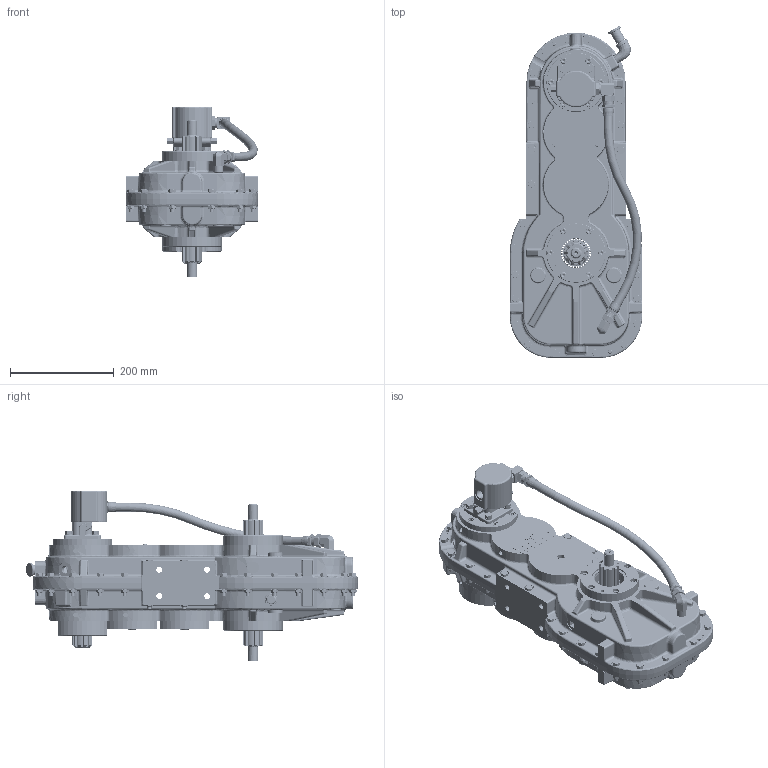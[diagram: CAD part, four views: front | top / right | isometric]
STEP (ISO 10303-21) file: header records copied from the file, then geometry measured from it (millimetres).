
FILE_DESCRIPTION (( 'STEP AP214' ), '1' );
FILE_NAME ('D146A164002.STEP', '2017-10-13T13:33:04', ( 'MikeMihajlovic' ), ( 'Microsoft' ), 'SwSTEP 2.0', 'SolidWorks 2017', '' );
FILE_SCHEMA (( 'AUTOMOTIVE_DESIGN' ));
Length unit declared in the file: inch
Products named in the file (45): SH146016.002; DWL.312X1.00; STEL.38NPT_4638K222; D146A164002; SG .50NPT-02; AV313650; NP266409-1; SHCS .31-18x1.00_SHCS 0.3125-16X1.00; LNNZ.31-24; HHCSZ.31-24x3.50_HBOLT 0.3125-18x1.125x0.875-N; D146016; OS2.250-47; HHCSZ.31-24X1.50; D146017; LWZ.31_Regular LW 0.375; LP1300092_3; HHCSZ.31-18x.75_HBOLT 0.3125-18x0.875x0.875-N; D146003; D146010; SHCS .31-18x.75_HX-SHCS 0.3125-24x0.75x0.75-N; D146005; HA-8-8-7-D146A164002_INTERCONNECTION; D146014; D146039; 271-08-7_03_OUTPUT; D146014_ASM_1; PPSQDG.500-14; 20621-8-8; RD146A01_AF1_1; PPSKM.50-14; 8 CCTX-S; D146014_ASM; PPSKG.38-18_PPSKG.38-18; STC8 C5OX-S_8 C5OX-S; PPSQDG.750-14; SH146016.0075; D146038; PPPI.38NPT; SH146016.010; RD146A01_AF2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
Assembly tree (160 placements, depth 4):
  D146A164002
    D146038
      D146019_ASM_1
      RD146A01_AF2
    D146014
      D146014_ASM_1
      D146014_ASM_1
        D146014_ASM
        RD146A01_AF1_1
    D146005
    D146010  x2
    D146003
    LP1300092_3
    D146017  x2
    OS2.250-47  x3
    D146016
    LNNZ.31-24  x28
    NP266409-1
    SG .50NPT-02
    DWL.312X1.00  x2
    DS90081A106  x2
    PPPI.12NPT  x4
    PPPI.38NPT
    PPSQDG.750-14
    PPSKG.38-18_PPSKG.38-18  x2
    PPSKM.50-14
    PPSQDG.500-14
    D146039
    SHCS .31-18x.75_HX-SHCS 0.3125-24x0.75x0.75-N  x6
    HHCSZ.31-18x.75_HBOLT 0.3125-18x0.875x0.875-N  x4
    LWZ.31_Regular LW 0.375  x4
    HHCSZ.31-24X1.50  x24
    HHCSZ.31-24x3.50_HBOLT 0.3125-18x1.125x0.875-N  x4
    SHCS .31-18x1.00_SHCS 0.3125-16X1.00  x30
    AV313650
    STEL.38NPT_4638K222
    SH146016.002  x4
    SH146016.005  x4
    SH146016.010  x4
    SH146016.0075  x4
    STC8 C5OX-S_8 C5OX-S
    8 CCTX-S
    HA-8-8-7-D146A164002_INTERCONNECTION
      20621-8-8  x2
      271-08-7_03_OUTPUT
Bounding box: 254.89 x 640.04 x 329.11 mm (x, y, z)
Volume: 6704198.2 mm3; surface area: 1677912 mm2
Topology: 149 solids, 261 shells, 7290 faces, 18308 edges, 11571 vertices
Faces by surface type: plane 2776, cylinder 2230, cone 1193, bspline 876, torus 215
Entity records: 220274 total; most frequent: CARTESIAN_POINT 104520, ORIENTED_EDGE 24900, DIRECTION 21137, EDGE_CURVE 12667, VERTEX_POINT 8150, AXIS2_PLACEMENT_3D 7923, EDGE_LOOP 5442, LINE 5291
